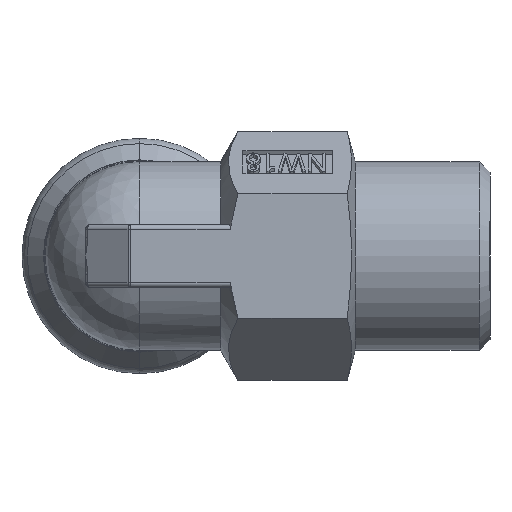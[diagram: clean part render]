
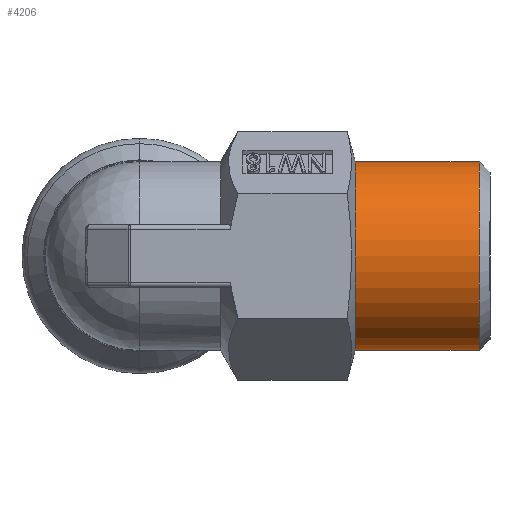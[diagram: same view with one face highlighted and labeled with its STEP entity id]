
A CAD part, left-side view. The second image highlights one B-rep face of the part: STEP entity #4206.
In plain terms, the highlighted cylindrical face has radius 10.5 mm (diameter 21 mm), a partial arc.
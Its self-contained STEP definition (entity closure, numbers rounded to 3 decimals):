
#30 = AXIS2_PLACEMENT_3D ( 'NONE', #1574, #5631, #4686 ) ;
#269 = CIRCLE ( 'NONE', #30, 10.5 ) ;
#446 = CYLINDRICAL_SURFACE ( 'NONE', #1567, 10.5 ) ;
#453 = CARTESIAN_POINT ( 'NONE',  ( 0., -37.8, 0. ) ) ;
#765 = ORIENTED_EDGE ( 'NONE', *, *, #1084, .T. ) ;
#1084 = EDGE_CURVE ( 'NONE', #3525, #5195, #269, .T. ) ;
#1089 = CARTESIAN_POINT ( 'NONE',  ( 0., -39., 0. ) ) ;
#1191 = CARTESIAN_POINT ( 'NONE',  ( 0., -37.8, -10.5 ) ) ;
#1339 = ORIENTED_EDGE ( 'NONE', *, *, #4037, .F. ) ;
#1359 = CARTESIAN_POINT ( 'NONE',  ( 0., -24., 10.5 ) ) ;
#1368 = AXIS2_PLACEMENT_3D ( 'NONE', #453, #1381, #3548 ) ;
#1381 = DIRECTION ( 'NONE',  ( 0., 1., 0. ) ) ;
#1567 = AXIS2_PLACEMENT_3D ( 'NONE', #1089, #2919, #5073 ) ;
#1574 = CARTESIAN_POINT ( 'NONE',  ( 0., -24., 0. ) ) ;
#2512 = VECTOR ( 'NONE', #2725, 1000. ) ;
#2594 = CARTESIAN_POINT ( 'NONE',  ( 0., -24., -10.5 ) ) ;
#2725 = DIRECTION ( 'NONE',  ( 0., 1., 0. ) ) ;
#2889 = VERTEX_POINT ( 'NONE', #1191 ) ;
#2919 = DIRECTION ( 'NONE',  ( 0., 1., 0. ) ) ;
#3079 = LINE ( 'NONE', #4970, #4539 ) ;
#3200 = DIRECTION ( 'NONE',  ( 0., 1., 0. ) ) ;
#3525 = VERTEX_POINT ( 'NONE', #1359 ) ;
#3542 = EDGE_CURVE ( 'NONE', #2889, #5091, #3890, .T. ) ;
#3548 = DIRECTION ( 'NONE',  ( 0., 0., -1. ) ) ;
#3585 = EDGE_CURVE ( 'NONE', #5091, #3525, #5437, .T. ) ;
#3695 = EDGE_LOOP ( 'NONE', ( #1339, #5508, #5092, #765 ) ) ;
#3890 = CIRCLE ( 'NONE', #1368, 10.5 ) ;
#4037 = EDGE_CURVE ( 'NONE', #2889, #5195, #3079, .T. ) ;
#4206 = ADVANCED_FACE ( 'NONE', ( #5015 ), #446, .T. ) ;
#4462 = CARTESIAN_POINT ( 'NONE',  ( 0., -39., 10.5 ) ) ;
#4539 = VECTOR ( 'NONE', #3200, 1000. ) ;
#4686 = DIRECTION ( 'NONE',  ( 0., 0., -1. ) ) ;
#4970 = CARTESIAN_POINT ( 'NONE',  ( 0., -39., -10.5 ) ) ;
#5015 = FACE_OUTER_BOUND ( 'NONE', #3695, .T. ) ;
#5073 = DIRECTION ( 'NONE',  ( 0., 0., 1. ) ) ;
#5091 = VERTEX_POINT ( 'NONE', #5588 ) ;
#5092 = ORIENTED_EDGE ( 'NONE', *, *, #3585, .T. ) ;
#5195 = VERTEX_POINT ( 'NONE', #2594 ) ;
#5437 = LINE ( 'NONE', #4462, #2512 ) ;
#5508 = ORIENTED_EDGE ( 'NONE', *, *, #3542, .T. ) ;
#5588 = CARTESIAN_POINT ( 'NONE',  ( 0., -37.8, 10.5 ) ) ;
#5631 = DIRECTION ( 'NONE',  ( 0., -1., 0. ) ) ;
